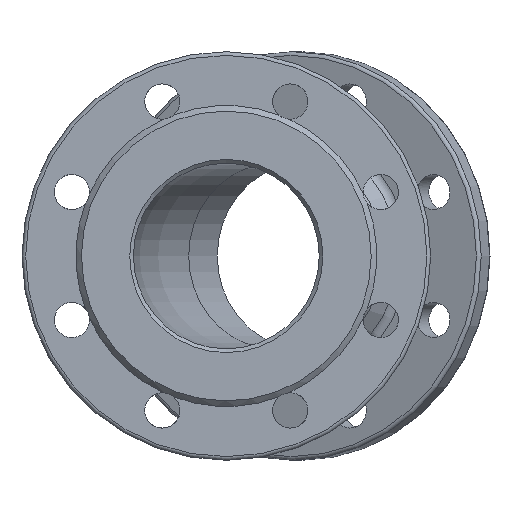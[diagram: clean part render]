
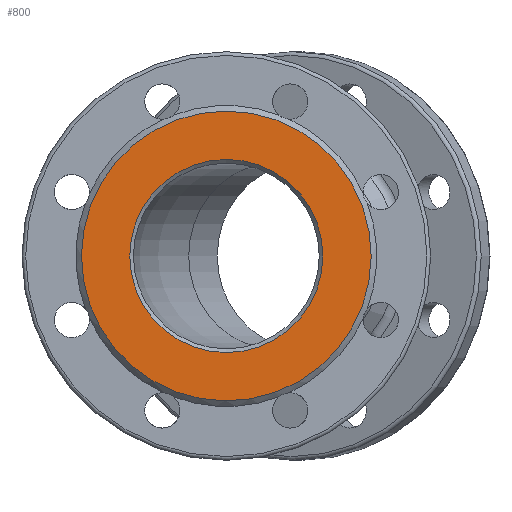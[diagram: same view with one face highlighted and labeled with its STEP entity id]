
A CAD part, left-side view. The second image highlights one B-rep face of the part: STEP entity #800.
In plain terms, the highlighted planar face has unit normal (-1, 0, 0).
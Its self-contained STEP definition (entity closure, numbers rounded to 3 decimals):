
#186 = CARTESIAN_POINT ( 'NONE',  ( 0., 0., -52. ) ) ;
#199 = DIRECTION ( 'NONE',  ( 0., 0., -1. ) ) ;
#215 = EDGE_CURVE ( 'NONE', #1554, #1554, #1896, .T. ) ;
#392 = DIRECTION ( 'NONE',  ( 0., 0., 1. ) ) ;
#403 = ORIENTED_EDGE ( 'NONE', *, *, #658, .T. ) ;
#406 = FACE_BOUND ( 'NONE', #693, .T. ) ;
#429 = EDGE_LOOP ( 'NONE', ( #403 ) ) ;
#613 = AXIS2_PLACEMENT_3D ( 'NONE', #1308, #2690, #2672 ) ;
#658 = EDGE_CURVE ( 'NONE', #1095, #1095, #1700, .T. ) ;
#693 = EDGE_LOOP ( 'NONE', ( #2363 ) ) ;
#800 = ADVANCED_FACE ( 'NONE', ( #406, #2945 ), #1792, .F. ) ;
#959 = CARTESIAN_POINT ( 'NONE',  ( 0., 0., 78. ) ) ;
#1095 = VERTEX_POINT ( 'NONE', #959 ) ;
#1308 = CARTESIAN_POINT ( 'NONE',  ( 0., 0., 0. ) ) ;
#1522 = CARTESIAN_POINT ( 'NONE',  ( 0., 0., 0. ) ) ;
#1554 = VERTEX_POINT ( 'NONE', #186 ) ;
#1700 = CIRCLE ( 'NONE', #2468, 78. ) ;
#1792 = PLANE ( 'NONE',  #2420 ) ;
#1896 = CIRCLE ( 'NONE', #613, 52. ) ;
#2002 = CARTESIAN_POINT ( 'NONE',  ( 0., 50., 0. ) ) ;
#2363 = ORIENTED_EDGE ( 'NONE', *, *, #215, .T. ) ;
#2420 = AXIS2_PLACEMENT_3D ( 'NONE', #2002, #2929, #199 ) ;
#2442 = DIRECTION ( 'NONE',  ( -1., 0., 0. ) ) ;
#2468 = AXIS2_PLACEMENT_3D ( 'NONE', #1522, #2442, #392 ) ;
#2672 = DIRECTION ( 'NONE',  ( 0., 0., -1. ) ) ;
#2690 = DIRECTION ( 'NONE',  ( 1., 0., 0. ) ) ;
#2929 = DIRECTION ( 'NONE',  ( 1., 0., 0. ) ) ;
#2945 = FACE_OUTER_BOUND ( 'NONE', #429, .T. ) ;
